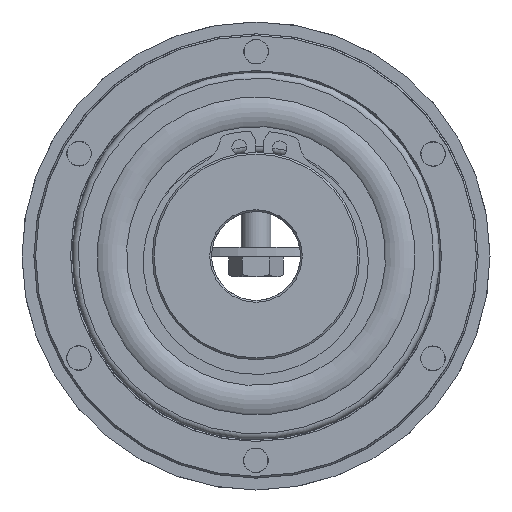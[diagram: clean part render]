
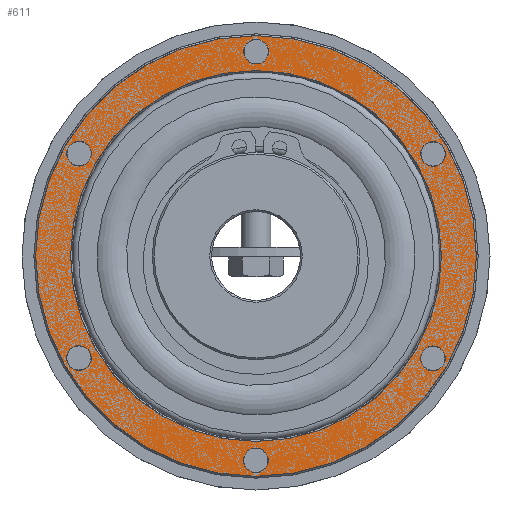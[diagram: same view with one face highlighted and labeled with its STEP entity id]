
A CAD part, left-side view. The second image highlights one B-rep face of the part: STEP entity #611.
In plain terms, the highlighted planar face has unit normal (-1, 0, 0).
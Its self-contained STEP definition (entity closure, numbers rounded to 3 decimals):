
#611 = ADVANCED_FACE( '', ( #1086, #1087, #1088, #1089, #1090, #1091, #1092, #1093 ), #1094, .F. );
#1086 = FACE_OUTER_BOUND( '', #1546, .T. );
#1087 = FACE_BOUND( '', #1547, .T. );
#1088 = FACE_BOUND( '', #1548, .T. );
#1089 = FACE_BOUND( '', #1549, .T. );
#1090 = FACE_BOUND( '', #1550, .T. );
#1091 = FACE_BOUND( '', #1551, .T. );
#1092 = FACE_BOUND( '', #1552, .T. );
#1093 = FACE_BOUND( '', #1553, .T. );
#1094 = PLANE( '', #1554 );
#1546 = EDGE_LOOP( '', ( #2508 ) );
#1547 = EDGE_LOOP( '', ( #2509 ) );
#1548 = EDGE_LOOP( '', ( #2510 ) );
#1549 = EDGE_LOOP( '', ( #2511 ) );
#1550 = EDGE_LOOP( '', ( #2512 ) );
#1551 = EDGE_LOOP( '', ( #2513 ) );
#1552 = EDGE_LOOP( '', ( #2514 ) );
#1553 = EDGE_LOOP( '', ( #2515 ) );
#1554 = AXIS2_PLACEMENT_3D( '', #2516, #2517, #2518 );
#2508 = ORIENTED_EDGE( '', *, *, #2874, .T. );
#2509 = ORIENTED_EDGE( '', *, *, #2875, .T. );
#2510 = ORIENTED_EDGE( '', *, *, #2876, .T. );
#2511 = ORIENTED_EDGE( '', *, *, #2877, .T. );
#2512 = ORIENTED_EDGE( '', *, *, #2878, .T. );
#2513 = ORIENTED_EDGE( '', *, *, #2879, .T. );
#2514 = ORIENTED_EDGE( '', *, *, #2880, .T. );
#2515 = ORIENTED_EDGE( '', *, *, #2871, .T. );
#2516 = CARTESIAN_POINT( '', ( -17.75, 37.5, 0. ) );
#2517 = DIRECTION( '', ( 1., 0., 0. ) );
#2518 = DIRECTION( '', ( 0., 1., 0. ) );
#2871 = EDGE_CURVE( '', #3334, #3334, #3335, .T. );
#2874 = EDGE_CURVE( '', #3340, #3340, #3341, .T. );
#2875 = EDGE_CURVE( '', #3342, #3342, #3343, .T. );
#2876 = EDGE_CURVE( '', #3344, #3344, #3345, .T. );
#2877 = EDGE_CURVE( '', #3346, #3346, #3347, .T. );
#2878 = EDGE_CURVE( '', #3348, #3348, #3349, .T. );
#2879 = EDGE_CURVE( '', #3350, #3350, #3351, .T. );
#2880 = EDGE_CURVE( '', #3352, #3352, #3353, .T. );
#3334 = VERTEX_POINT( '', #4222 );
#3335 = CIRCLE( '', #4223, 2.067 );
#3340 = VERTEX_POINT( '', #4228 );
#3341 = CIRCLE( '', #4229, 37.2 );
#3342 = VERTEX_POINT( '', #4230 );
#3343 = CIRCLE( '', #4231, 31.3 );
#3344 = VERTEX_POINT( '', #4232 );
#3345 = CIRCLE( '', #4233, 2.067 );
#3346 = VERTEX_POINT( '', #4234 );
#3347 = CIRCLE( '', #4235, 2.067 );
#3348 = VERTEX_POINT( '', #4236 );
#3349 = CIRCLE( '', #4237, 2.067 );
#3350 = VERTEX_POINT( '', #4238 );
#3351 = CIRCLE( '', #4239, 2.067 );
#3352 = VERTEX_POINT( '', #4240 );
#3353 = CIRCLE( '', #4241, 2.067 );
#4222 = CARTESIAN_POINT( '', ( -17.75, 0., 36.567 ) );
#4223 = AXIS2_PLACEMENT_3D( '', #4728, #4729, #4730 );
#4228 = CARTESIAN_POINT( '', ( -17.75, 0., -37.2 ) );
#4229 = AXIS2_PLACEMENT_3D( '', #4737, #4738, #4739 );
#4230 = CARTESIAN_POINT( '', ( -17.75, 0., -31.3 ) );
#4231 = AXIS2_PLACEMENT_3D( '', #4740, #4741, #4742 );
#4232 = CARTESIAN_POINT( '', ( -17.75, 31.668, 18.284 ) );
#4233 = AXIS2_PLACEMENT_3D( '', #4743, #4744, #4745 );
#4234 = CARTESIAN_POINT( '', ( -17.75, 31.668, -18.284 ) );
#4235 = AXIS2_PLACEMENT_3D( '', #4746, #4747, #4748 );
#4236 = CARTESIAN_POINT( '', ( -17.75, 0., -36.567 ) );
#4237 = AXIS2_PLACEMENT_3D( '', #4749, #4750, #4751 );
#4238 = CARTESIAN_POINT( '', ( -17.75, -31.668, -18.284 ) );
#4239 = AXIS2_PLACEMENT_3D( '', #4752, #4753, #4754 );
#4240 = CARTESIAN_POINT( '', ( -17.75, -31.668, 18.284 ) );
#4241 = AXIS2_PLACEMENT_3D( '', #4755, #4756, #4757 );
#4728 = CARTESIAN_POINT( '', ( -17.75, 0., 34.5 ) );
#4729 = DIRECTION( '', ( 1., 0., 0. ) );
#4730 = DIRECTION( '', ( 0., 0., 1. ) );
#4737 = CARTESIAN_POINT( '', ( -17.75, 0., 0. ) );
#4738 = DIRECTION( '', ( -1., 0., 0. ) );
#4739 = DIRECTION( '', ( 0., 0., -1. ) );
#4740 = CARTESIAN_POINT( '', ( -17.75, 0., 0. ) );
#4741 = DIRECTION( '', ( 1., 0., 0. ) );
#4742 = DIRECTION( '', ( 0., 0., -1. ) );
#4743 = CARTESIAN_POINT( '', ( -17.75, 29.878, 17.25 ) );
#4744 = DIRECTION( '', ( 1., 0., 0. ) );
#4745 = DIRECTION( '', ( 0., 0.866, 0.5 ) );
#4746 = CARTESIAN_POINT( '', ( -17.75, 29.878, -17.25 ) );
#4747 = DIRECTION( '', ( 1., 0., 0. ) );
#4748 = DIRECTION( '', ( 0., 0.866, -0.5 ) );
#4749 = CARTESIAN_POINT( '', ( -17.75, 0., -34.5 ) );
#4750 = DIRECTION( '', ( 1., 0., 0. ) );
#4751 = DIRECTION( '', ( 0., 0., -1. ) );
#4752 = CARTESIAN_POINT( '', ( -17.75, -29.878, -17.25 ) );
#4753 = DIRECTION( '', ( 1., 0., 0. ) );
#4754 = DIRECTION( '', ( 0., -0.866, -0.5 ) );
#4755 = CARTESIAN_POINT( '', ( -17.75, -29.878, 17.25 ) );
#4756 = DIRECTION( '', ( 1., 0., 0. ) );
#4757 = DIRECTION( '', ( 0., -0.866, 0.5 ) );
